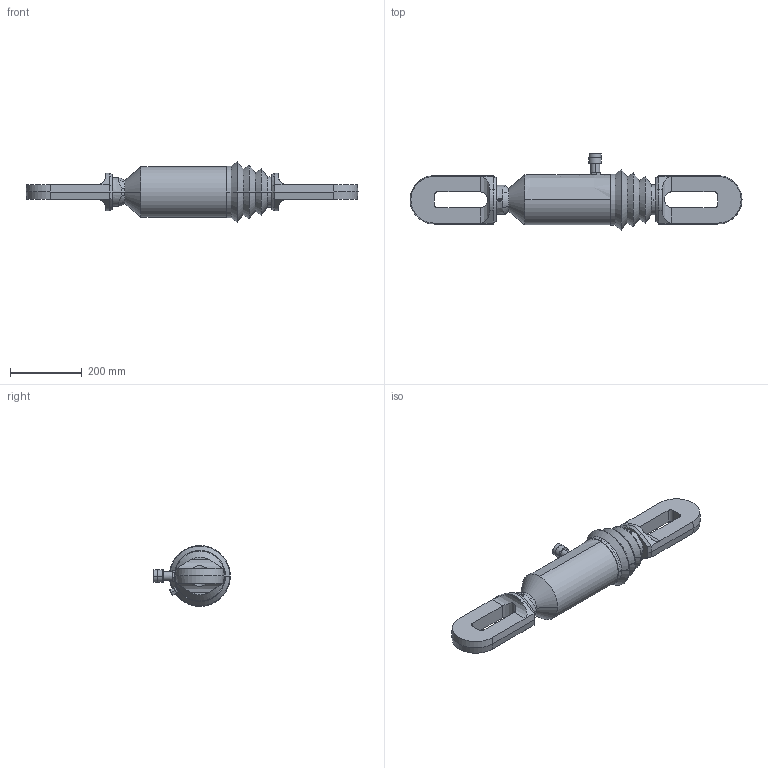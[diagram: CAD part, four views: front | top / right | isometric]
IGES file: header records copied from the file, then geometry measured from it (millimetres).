
Start section:  PTC IGES file: BRP-606.igs
Global section: file name: BRP-606.igs; native system: Creo Parametric by PTC Inc.; preprocessor: 2015290; author: mike.ward; organization: Unknown; date: 20161005.085824; units: inch
Bounding box: 926.6 x 213.78 x 170 mm (x, y, z)
Volume: 4662261.9 mm3; surface area: 717339.5 mm2
Topology: 3 solids, 3 shells, 479 faces, 1096 edges, 658 vertices
Faces by surface type: revolution 293, bspline 186
